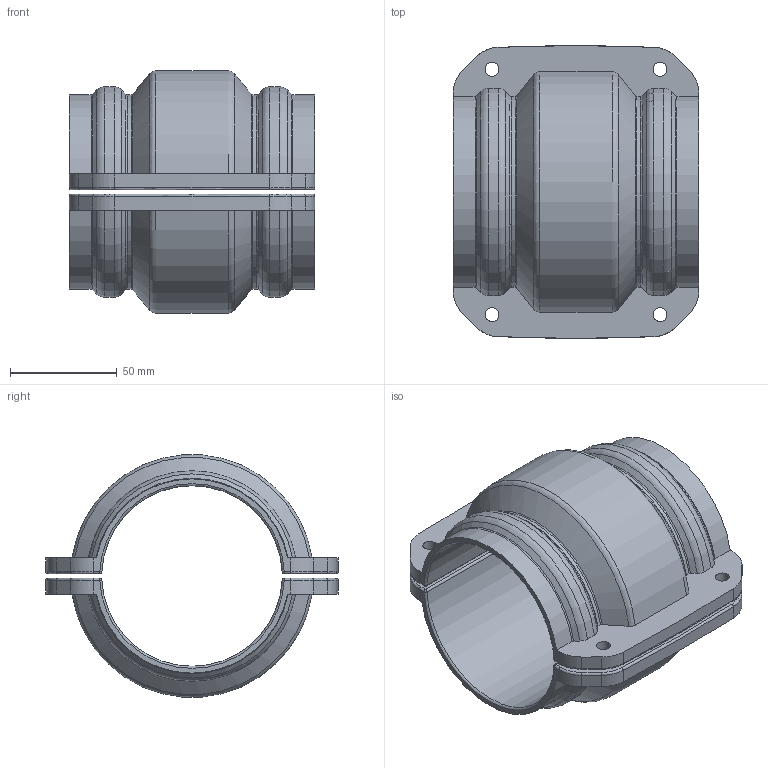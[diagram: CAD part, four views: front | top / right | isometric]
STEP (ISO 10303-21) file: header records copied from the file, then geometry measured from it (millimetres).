
FILE_DESCRIPTION((''),'2;1');
FILE_NAME('20157002_ASM_6_ASM','2017-05-15T',('Administrator'),(''),'PRO/ENGINEER BY PARAMETRIC TECHNOLOGY CORPORATION, 2009360','PRO/ENGINEER BY PARAMETRIC TECHNOLOGY CORPORATION, 2009360','');
FILE_SCHEMA(('AUTOMOTIVE_DESIGN_CC2 { 1 2 10303 214 -1 1 5 2 }'));
Length unit declared in the file: millimetre
Products named in the file (3): 201570020000_14; 201570020001_3; 20157002_ASM_6_ASM
Assembly tree (2 placements, depth 2):
  20157002_ASM_6_ASM
    201570020000_14
    201570020001_3
Bounding box: 115.01 x 137.21 x 113.4 mm (x, y, z)
Volume: 345646.5 mm3; surface area: 91359.3 mm2
Topology: 2 solids, 2 shells, 160 faces, 428 edges, 272 vertices
Faces by surface type: extrusion 52, bspline 28, plane 20, revolution 20, cylinder 20, cone 12, torus 8
Entity records: 8143 total; most frequent: CARTESIAN_POINT 2991, ORIENTED_EDGE 856, DIRECTION 606, PRESENTATION_STYLE_ASSIGNMENT 430, STYLED_ITEM 430, CURVE_STYLE 428, EDGE_CURVE 428, VERTEX_POINT 272
